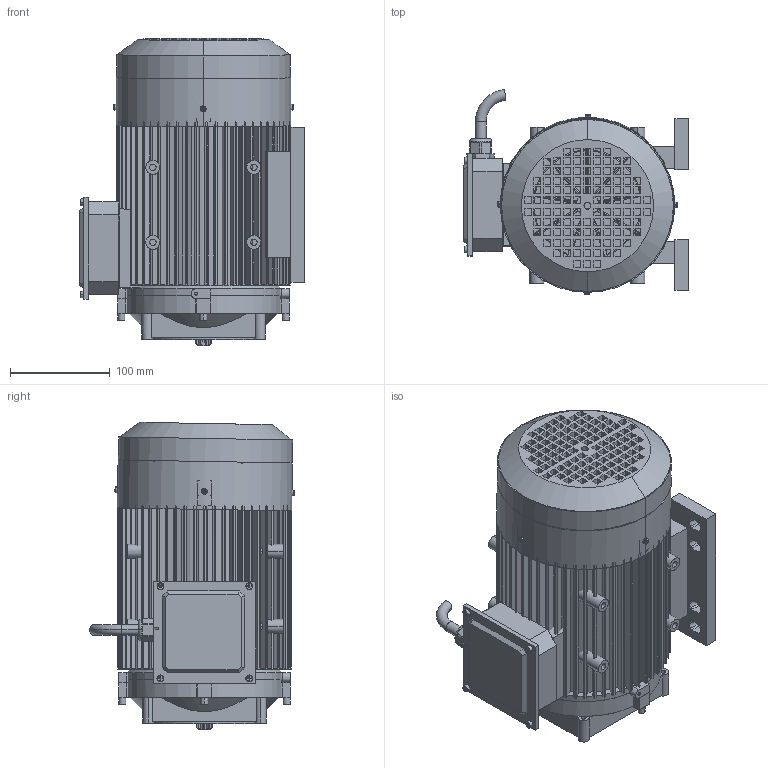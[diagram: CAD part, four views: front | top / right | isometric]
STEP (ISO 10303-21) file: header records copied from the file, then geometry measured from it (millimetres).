
FILE_DESCRIPTION (( 'STEP AP203' ), '1' );
FILE_NAME ('KAM-66.STEP', '2015-01-02T07:27:56', ( 'user' ), ( '' ), 'SwSTEP 2.0', 'SolidWorks 2013', '' );
FILE_SCHEMA (( 'CONFIG_CONTROL_DESIGN' ));
Length unit declared in the file: millimetre
Products named in the file (1): KAM-66
Bounding box: 225 x 205.16 x 307.5 mm (x, y, z)
Volume: 5839095.9 mm3; surface area: 771510.5 mm2
Topology: 60 solids, 61 shells, 2386 faces, 6073 edges, 3842 vertices
Faces by surface type: plane 1833, cylinder 346, cone 92, sphere 71, torus 44
Entity records: 72232 total; most frequent: CARTESIAN_POINT 15105, ORIENTED_EDGE 12110, DIRECTION 11179, EDGE_CURVE 6055, VECTOR 4549, LINE 4549, VERTEX_POINT 3834, AXIS2_PLACEMENT_3D 3315
